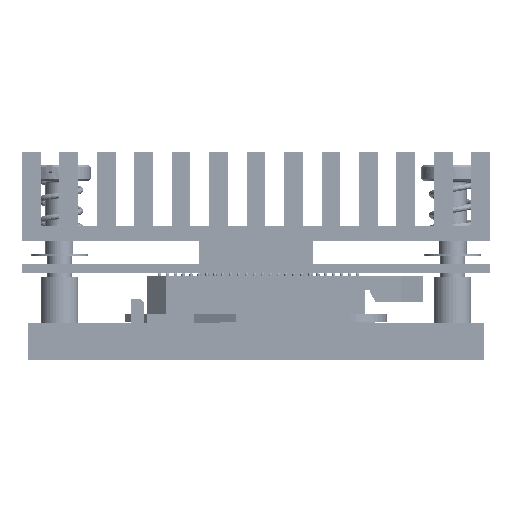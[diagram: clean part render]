
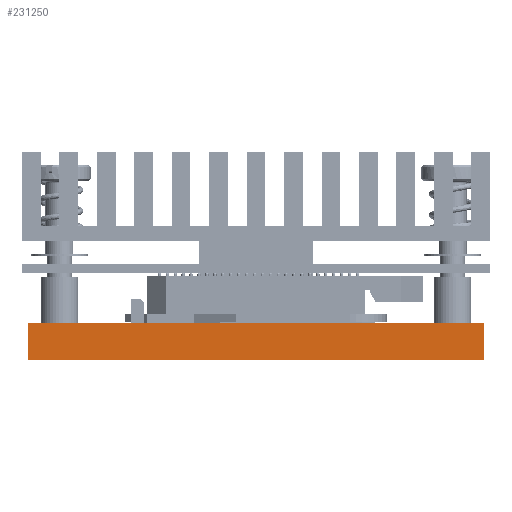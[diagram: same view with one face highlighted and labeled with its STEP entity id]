
A CAD part, front view. The second image highlights one B-rep face of the part: STEP entity #231250.
In plain terms, the highlighted planar face has unit normal (0, -1, 0).
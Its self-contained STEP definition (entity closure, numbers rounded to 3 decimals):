
#5344 = EDGE_CURVE ( 'NONE', #137075, #45370, #73645, .T. ) ;
#13821 = LINE ( 'NONE', #15258, #63582 ) ;
#15258 = CARTESIAN_POINT ( 'NONE',  ( -36.5, -22.5, 3. ) ) ;
#23827 = VECTOR ( 'NONE', #143840, 1000. ) ;
#33052 = LINE ( 'NONE', #114925, #182314 ) ;
#34109 = DIRECTION ( 'NONE',  ( 1., 0., 0. ) ) ;
#36080 = EDGE_LOOP ( 'NONE', ( #103273, #72933, #94300, #230250 ) ) ;
#40198 = VERTEX_POINT ( 'NONE', #196803 ) ;
#41008 = VERTEX_POINT ( 'NONE', #202990 ) ;
#45370 = VERTEX_POINT ( 'NONE', #224924 ) ;
#45793 = DIRECTION ( 'NONE',  ( 0., 0., -1. ) ) ;
#53892 = EDGE_CURVE ( 'NONE', #40198, #45370, #33052, .T. ) ;
#53994 = LINE ( 'NONE', #195511, #197389 ) ;
#62806 = CARTESIAN_POINT ( 'NONE',  ( -36.5, -22.5, -3. ) ) ;
#63582 = VECTOR ( 'NONE', #34109, 1000. ) ;
#72933 = ORIENTED_EDGE ( 'NONE', *, *, #5344, .T. ) ;
#73645 = LINE ( 'NONE', #125117, #23827 ) ;
#87778 = DIRECTION ( 'NONE',  ( 0., 1., 0. ) ) ;
#94300 = ORIENTED_EDGE ( 'NONE', *, *, #53892, .F. ) ;
#103273 = ORIENTED_EDGE ( 'NONE', *, *, #177332, .T. ) ;
#114925 = CARTESIAN_POINT ( 'NONE',  ( 36.5, -22.5, 3. ) ) ;
#124599 = CARTESIAN_POINT ( 'NONE',  ( -36.5, -22.5, 3. ) ) ;
#125117 = CARTESIAN_POINT ( 'NONE',  ( 0., -22.5, -3. ) ) ;
#137075 = VERTEX_POINT ( 'NONE', #62806 ) ;
#142585 = EDGE_CURVE ( 'NONE', #41008, #40198, #13821, .T. ) ;
#143840 = DIRECTION ( 'NONE',  ( 1., 0., 0. ) ) ;
#162151 = PLANE ( 'NONE',  #215340 ) ;
#177332 = EDGE_CURVE ( 'NONE', #41008, #137075, #53994, .T. ) ;
#182314 = VECTOR ( 'NONE', #227143, 1000. ) ;
#195511 = CARTESIAN_POINT ( 'NONE',  ( -36.5, -22.5, 3. ) ) ;
#196803 = CARTESIAN_POINT ( 'NONE',  ( 36.5, -22.5, 3. ) ) ;
#197389 = VECTOR ( 'NONE', #45793, 1000. ) ;
#202990 = CARTESIAN_POINT ( 'NONE',  ( -36.5, -22.5, 3. ) ) ;
#214095 = FACE_OUTER_BOUND ( 'NONE', #36080, .T. ) ;
#215340 = AXIS2_PLACEMENT_3D ( 'NONE', #124599, #87778, #218699 ) ;
#218699 = DIRECTION ( 'NONE',  ( 0., 0., 1. ) ) ;
#224924 = CARTESIAN_POINT ( 'NONE',  ( 36.5, -22.5, -3. ) ) ;
#227143 = DIRECTION ( 'NONE',  ( 0., 0., -1. ) ) ;
#230250 = ORIENTED_EDGE ( 'NONE', *, *, #142585, .F. ) ;
#231250 = ADVANCED_FACE ( 'NONE', ( #214095 ), #162151, .F. ) ;
